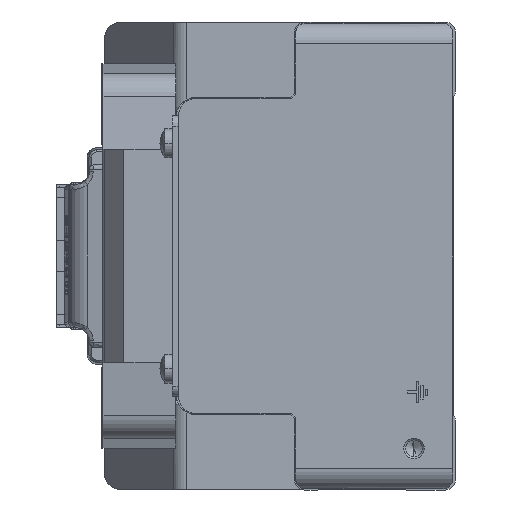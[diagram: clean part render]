
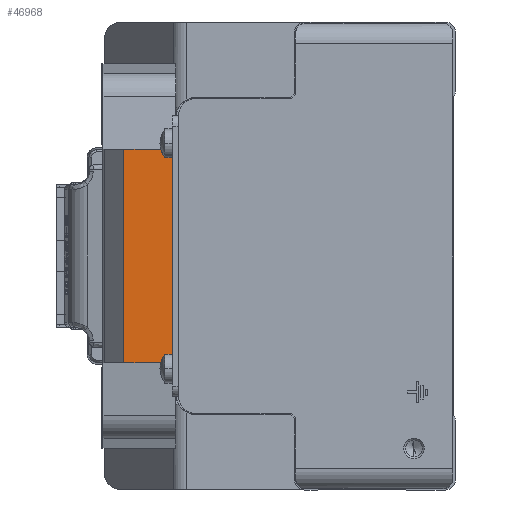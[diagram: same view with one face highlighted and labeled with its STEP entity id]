
A CAD part, left-side view. The second image highlights one B-rep face of the part: STEP entity #46968.
In plain terms, the highlighted planar face has unit normal (-1, 0, 0) as drawn and (0, 0, 1) by its records, which use the part's own axes.
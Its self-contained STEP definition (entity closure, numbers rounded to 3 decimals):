
#30 = DIRECTION ( 'NONE',  ( -1., 0., 0. ) ) ;
#98 = CARTESIAN_POINT ( 'NONE',  ( 20.5, 14., 170. ) ) ;
#1376 = DIRECTION ( 'NONE',  ( 0.243, 0.97, 0. ) ) ;
#2251 = AXIS2_PLACEMENT_3D ( 'NONE', #12636, #3544, #43561 ) ;
#3010 = VERTEX_POINT ( 'NONE', #46300 ) ;
#3544 = DIRECTION ( 'NONE',  ( 0., 0., -1. ) ) ;
#3763 = VERTEX_POINT ( 'NONE', #10816 ) ;
#4123 = PLANE ( 'NONE',  #2251 ) ;
#4244 = LINE ( 'NONE', #22782, #44109 ) ;
#4512 = VERTEX_POINT ( 'NONE', #43833 ) ;
#4789 = ORIENTED_EDGE ( 'NONE', *, *, #33923, .T. ) ;
#8347 = LINE ( 'NONE', #39851, #8451 ) ;
#8451 = VECTOR ( 'NONE', #26327, 1000. ) ;
#8933 = CARTESIAN_POINT ( 'NONE',  ( -20.5, 0., 170. ) ) ;
#9762 = ORIENTED_EDGE ( 'NONE', *, *, #32761, .T. ) ;
#10643 = ORIENTED_EDGE ( 'NONE', *, *, #48258, .F. ) ;
#10760 = CARTESIAN_POINT ( 'NONE',  ( -20., -2., 170. ) ) ;
#10816 = CARTESIAN_POINT ( 'NONE',  ( 20.5, 0., 170. ) ) ;
#10875 = VERTEX_POINT ( 'NONE', #49393 ) ;
#12089 = VERTEX_POINT ( 'NONE', #53601 ) ;
#12636 = CARTESIAN_POINT ( 'NONE',  ( -20.5, 14., 170. ) ) ;
#14839 = DIRECTION ( 'NONE',  ( 0.243, 0.97, 0. ) ) ;
#15637 = VERTEX_POINT ( 'NONE', #32717 ) ;
#16380 = EDGE_CURVE ( 'NONE', #42282, #4512, #4244, .T. ) ;
#16402 = EDGE_CURVE ( 'NONE', #10875, #28406, #49560, .T. ) ;
#17744 = ORIENTED_EDGE ( 'NONE', *, *, #16402, .T. ) ;
#18020 = DIRECTION ( 'NONE',  ( 0., -1., 0. ) ) ;
#18746 = VECTOR ( 'NONE', #31630, 1000. ) ;
#19629 = CARTESIAN_POINT ( 'NONE',  ( 19.5, 0., 170. ) ) ;
#20523 = EDGE_LOOP ( 'NONE', ( #9762, #33036, #52227, #22381, #17744, #4789, #38230, #10643 ) ) ;
#22381 = ORIENTED_EDGE ( 'NONE', *, *, #40301, .T. ) ;
#22396 = LINE ( 'NONE', #40338, #46098 ) ;
#22782 = CARTESIAN_POINT ( 'NONE',  ( -20.5, 0., 170. ) ) ;
#23377 = CARTESIAN_POINT ( 'NONE',  ( -20.5, 14., 170. ) ) ;
#25349 = EDGE_CURVE ( 'NONE', #12089, #3763, #37201, .T. ) ;
#26327 = DIRECTION ( 'NONE',  ( 0.243, -0.97, 0. ) ) ;
#28406 = VERTEX_POINT ( 'NONE', #19629 ) ;
#31150 = EDGE_CURVE ( 'NONE', #15637, #42282, #36616, .T. ) ;
#31630 = DIRECTION ( 'NONE',  ( 1., 0., 0. ) ) ;
#32717 = CARTESIAN_POINT ( 'NONE',  ( -20.5, 10., 170. ) ) ;
#32761 = EDGE_CURVE ( 'NONE', #3010, #15637, #22396, .T. ) ;
#33036 = ORIENTED_EDGE ( 'NONE', *, *, #31150, .T. ) ;
#33300 = VECTOR ( 'NONE', #1376, 1000. ) ;
#33923 = EDGE_CURVE ( 'NONE', #28406, #12089, #8347, .T. ) ;
#35019 = FACE_OUTER_BOUND ( 'NONE', #20523, .T. ) ;
#36616 = LINE ( 'NONE', #23377, #48435 ) ;
#37201 = LINE ( 'NONE', #55175, #53310 ) ;
#38230 = ORIENTED_EDGE ( 'NONE', *, *, #25349, .T. ) ;
#39851 = CARTESIAN_POINT ( 'NONE',  ( 19.5, 0., 170. ) ) ;
#40301 = EDGE_CURVE ( 'NONE', #4512, #10875, #51085, .T. ) ;
#40338 = CARTESIAN_POINT ( 'NONE',  ( 20.5, 10., 170. ) ) ;
#40406 = LINE ( 'NONE', #98, #44658 ) ;
#40745 = DIRECTION ( 'NONE',  ( 0.243, -0.97, 0. ) ) ;
#42282 = VERTEX_POINT ( 'NONE', #47571 ) ;
#43561 = DIRECTION ( 'NONE',  ( -1., 0., 0. ) ) ;
#43833 = CARTESIAN_POINT ( 'NONE',  ( -20., -2., 170. ) ) ;
#44109 = VECTOR ( 'NONE', #40745, 1000. ) ;
#44658 = VECTOR ( 'NONE', #18020, 1000. ) ;
#46098 = VECTOR ( 'NONE', #30, 1000. ) ;
#46300 = CARTESIAN_POINT ( 'NONE',  ( 20.5, 10., 170. ) ) ;
#46968 = ADVANCED_FACE ( 'NONE', ( #35019 ), #4123, .F. ) ;
#47571 = CARTESIAN_POINT ( 'NONE',  ( -20.5, 0., 170. ) ) ;
#48258 = EDGE_CURVE ( 'NONE', #3010, #3763, #40406, .T. ) ;
#48435 = VECTOR ( 'NONE', #50144, 1000. ) ;
#49393 = CARTESIAN_POINT ( 'NONE',  ( -19.5, 0., 170. ) ) ;
#49560 = LINE ( 'NONE', #8933, #18746 ) ;
#50144 = DIRECTION ( 'NONE',  ( 0., -1., 0. ) ) ;
#51085 = LINE ( 'NONE', #10760, #33300 ) ;
#52227 = ORIENTED_EDGE ( 'NONE', *, *, #16380, .T. ) ;
#53310 = VECTOR ( 'NONE', #14839, 1000. ) ;
#53601 = CARTESIAN_POINT ( 'NONE',  ( 20., -2., 170. ) ) ;
#55175 = CARTESIAN_POINT ( 'NONE',  ( 20., -2., 170. ) ) ;
